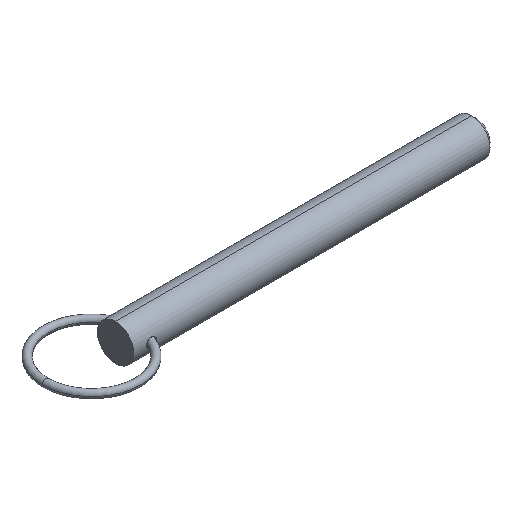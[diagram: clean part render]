
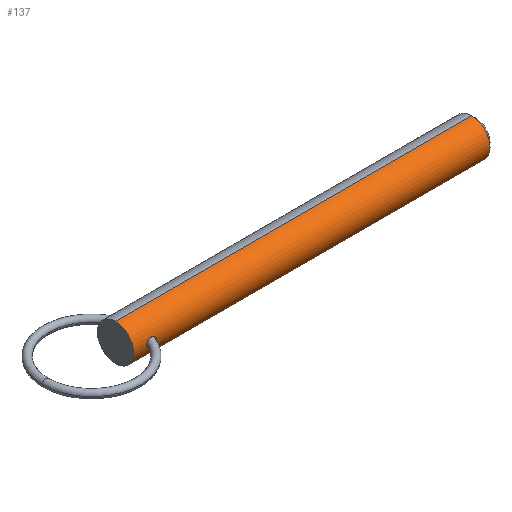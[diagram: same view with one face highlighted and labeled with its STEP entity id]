
A CAD part, isometric view. The second image highlights one B-rep face of the part: STEP entity #137.
In plain terms, the highlighted cylindrical face has radius 6.35 mm (diameter 12.7 mm), a partial arc.
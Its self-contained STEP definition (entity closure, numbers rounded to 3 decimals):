
#6 = CARTESIAN_POINT ( 'NONE',  ( 6.111, -6.15, 1.582 ) ) ;
#12 = CARTESIAN_POINT ( 'NONE',  ( 5.784, -6.165, -1.523 ) ) ;
#30 = DIRECTION ( 'NONE',  ( 0., 0., -1. ) ) ;
#39 = CARTESIAN_POINT ( 'NONE',  ( 7.693, -6.296, -0.832 ) ) ;
#40 = CARTESIAN_POINT ( 'NONE',  ( 0., 0., 0. ) ) ;
#46 = DIRECTION ( 'NONE',  ( 1., 0., 0. ) ) ;
#57 = CARTESIAN_POINT ( 'NONE',  ( 7.875, -6.338, 0.437 ) ) ;
#58 = VERTEX_POINT ( 'NONE', #114 ) ;
#62 = CARTESIAN_POINT ( 'NONE',  ( 6.329, -6.148, 1.59 ) ) ;
#77 = EDGE_CURVE ( 'NONE', #521, #466, #574, .T. ) ;
#89 = CARTESIAN_POINT ( 'NONE',  ( 7.336, -6.229, -1.238 ) ) ;
#108 = CARTESIAN_POINT ( 'NONE',  ( 4.722, -6.298, -0.813 ) ) ;
#113 = CARTESIAN_POINT ( 'NONE',  ( 6.107, -6.15, -1.582 ) ) ;
#114 = CARTESIAN_POINT ( 'NONE',  ( 4.452, -6.35, 0. ) ) ;
#121 = CYLINDRICAL_SURFACE ( 'NONE', #220, 6.35 ) ;
#131 = AXIS2_PLACEMENT_3D ( 'NONE', #519, #46, #444 ) ;
#137 = ADVANCED_FACE ( 'NONE', ( #450, #872 ), #121, .T. ) ;
#139 = B_SPLINE_CURVE_WITH_KNOTS ( 'NONE', 3,
 ( #183, #375, #438, #420, #653, #789, #39, #649, #178, #89, #360, #365, #714, #163, #626, #113, #319, #12, #843, #793, #718, #226, #484, #299, #294, #108, #557, #770, #159, #436, #553, #378 ),
 .UNSPECIFIED., .F., .F.,
 ( 4, 2, 2, 2, 2, 2, 2, 2, 2, 2, 2, 2, 2, 2, 2, 4 ),
 ( 0.006, 0.007, 0.007, 0.007, 0.008, 0.008, 0.008, 0.009, 0.009, 0.01, 0.01, 0.01, 0.011, 0.011, 0.011, 0.012 ),
 .UNSPECIFIED. ) ;
#140 = CARTESIAN_POINT ( 'NONE',  ( 0., 0., -6.35 ) ) ;
#146 = CARTESIAN_POINT ( 'NONE',  ( 5.191, -6.224, 1.268 ) ) ;
#149 = EDGE_CURVE ( 'NONE', #521, #298, #373, .T. ) ;
#159 = CARTESIAN_POINT ( 'NONE',  ( 4.52, -6.336, -0.428 ) ) ;
#163 = CARTESIAN_POINT ( 'NONE',  ( 6.655, -6.155, -1.565 ) ) ;
#171 = VERTEX_POINT ( 'NONE', #736 ) ;
#178 = CARTESIAN_POINT ( 'NONE',  ( 7.496, -6.256, -1.091 ) ) ;
#183 = CARTESIAN_POINT ( 'NONE',  ( 7.92, -6.35, 0. ) ) ;
#185 = DIRECTION ( 'NONE',  ( 1., 0., 0. ) ) ;
#200 = EDGE_LOOP ( 'NONE', ( #769, #619 ) ) ;
#208 = CARTESIAN_POINT ( 'NONE',  ( 7.92, -6.35, 0.218 ) ) ;
#214 = CARTESIAN_POINT ( 'NONE',  ( 4.51, -6.338, 0.435 ) ) ;
#220 = AXIS2_PLACEMENT_3D ( 'NONE', #40, #185, #30 ) ;
#226 = CARTESIAN_POINT ( 'NONE',  ( 5.192, -6.225, -1.257 ) ) ;
#241 = CARTESIAN_POINT ( 'NONE',  ( 123.812, 0., 0. ) ) ;
#248 = DIRECTION ( 'NONE',  ( 1., 0., 0. ) ) ;
#264 = DIRECTION ( 'NONE',  ( 1., 0., 0. ) ) ;
#274 = CARTESIAN_POINT ( 'NONE',  ( 6.759, -6.163, 1.529 ) ) ;
#286 = ORIENTED_EDGE ( 'NONE', *, *, #451, .T. ) ;
#294 = CARTESIAN_POINT ( 'NONE',  ( 4.86, -6.274, -0.98 ) ) ;
#298 = VERTEX_POINT ( 'NONE', #508 ) ;
#299 = CARTESIAN_POINT ( 'NONE',  ( 4.938, -6.262, -1.058 ) ) ;
#304 = AXIS2_PLACEMENT_3D ( 'NONE', #241, #248, #507 ) ;
#312 = B_SPLINE_CURVE_WITH_KNOTS ( 'NONE', 3,
 ( #825, #355, #214, #889, #753, #146, #477, #474, #345, #671, #6, #62, #337, #605, #274, #401, #411, #531, #666, #823, #682, #57, #208, #621 ),
 .UNSPECIFIED., .F., .F.,
 ( 4, 2, 2, 2, 2, 2, 2, 2, 2, 2, 2, 4 ),
 ( 0.001, 0.002, 0.002, 0.003, 0.003, 0.004, 0.004, 0.004, 0.005, 0.005, 0.006, 0.006 ),
 .UNSPECIFIED. ) ;
#319 = CARTESIAN_POINT ( 'NONE',  ( 5.998, -6.153, -1.568 ) ) ;
#326 = EDGE_CURVE ( 'NONE', #58, #419, #312, .T. ) ;
#328 = CIRCLE ( 'NONE', #304, 6.35 ) ;
#337 = CARTESIAN_POINT ( 'NONE',  ( 6.437, -6.149, 1.585 ) ) ;
#345 = CARTESIAN_POINT ( 'NONE',  ( 5.789, -6.164, 1.525 ) ) ;
#355 = CARTESIAN_POINT ( 'NONE',  ( 4.452, -6.35, 0.219 ) ) ;
#360 = CARTESIAN_POINT ( 'NONE',  ( 7.25, -6.215, -1.302 ) ) ;
#365 = CARTESIAN_POINT ( 'NONE',  ( 7.063, -6.191, -1.413 ) ) ;
#373 = CIRCLE ( 'NONE', #131, 6.35 ) ;
#375 = CARTESIAN_POINT ( 'NONE',  ( 7.92, -6.35, -0.109 ) ) ;
#378 = CARTESIAN_POINT ( 'NONE',  ( 4.452, -6.35, 0. ) ) ;
#382 = CARTESIAN_POINT ( 'NONE',  ( 0., 0., 6.35 ) ) ;
#401 = CARTESIAN_POINT ( 'NONE',  ( 6.965, -6.181, 1.458 ) ) ;
#406 = DIRECTION ( 'NONE',  ( 1., 0., 0. ) ) ;
#411 = CARTESIAN_POINT ( 'NONE',  ( 7.063, -6.191, 1.413 ) ) ;
#415 = ORIENTED_EDGE ( 'NONE', *, *, #77, .F. ) ;
#419 = VERTEX_POINT ( 'NONE', #688 ) ;
#420 = CARTESIAN_POINT ( 'NONE',  ( 7.865, -6.336, -0.432 ) ) ;
#436 = CARTESIAN_POINT ( 'NONE',  ( 4.466, -6.347, -0.219 ) ) ;
#438 = CARTESIAN_POINT ( 'NONE',  ( 7.909, -6.347, -0.22 ) ) ;
#444 = DIRECTION ( 'NONE',  ( 0., 0., -1. ) ) ;
#450 = FACE_OUTER_BOUND ( 'NONE', #552, .T. ) ;
#451 = EDGE_CURVE ( 'NONE', #298, #171, #482, .T. ) ;
#466 = VERTEX_POINT ( 'NONE', #573 ) ;
#474 = CARTESIAN_POINT ( 'NONE',  ( 5.685, -6.172, 1.494 ) ) ;
#477 = CARTESIAN_POINT ( 'NONE',  ( 5.381, -6.199, 1.378 ) ) ;
#482 = LINE ( 'NONE', #140, #680 ) ;
#484 = CARTESIAN_POINT ( 'NONE',  ( 5.104, -6.237, -1.196 ) ) ;
#486 = ORIENTED_EDGE ( 'NONE', *, *, #644, .F. ) ;
#505 = CARTESIAN_POINT ( 'NONE',  ( 0., 0., 6.35 ) ) ;
#507 = DIRECTION ( 'NONE',  ( 0., 0., -1. ) ) ;
#508 = CARTESIAN_POINT ( 'NONE',  ( 0., 0., -6.35 ) ) ;
#519 = CARTESIAN_POINT ( 'NONE',  ( 0., 0., 0. ) ) ;
#521 = VERTEX_POINT ( 'NONE', #382 ) ;
#528 = EDGE_CURVE ( 'NONE', #419, #58, #139, .T. ) ;
#531 = CARTESIAN_POINT ( 'NONE',  ( 7.249, -6.215, 1.303 ) ) ;
#552 = EDGE_LOOP ( 'NONE', ( #415, #771, #286, #486 ) ) ;
#553 = CARTESIAN_POINT ( 'NONE',  ( 4.452, -6.35, -0.109 ) ) ;
#557 = CARTESIAN_POINT ( 'NONE',  ( 4.662, -6.309, -0.723 ) ) ;
#573 = CARTESIAN_POINT ( 'NONE',  ( 123.812, 0., 6.35 ) ) ;
#574 = LINE ( 'NONE', #505, #818 ) ;
#605 = CARTESIAN_POINT ( 'NONE',  ( 6.652, -6.157, 1.554 ) ) ;
#619 = ORIENTED_EDGE ( 'NONE', *, *, #528, .T. ) ;
#621 = CARTESIAN_POINT ( 'NONE',  ( 7.92, -6.35, 0. ) ) ;
#626 = CARTESIAN_POINT ( 'NONE',  ( 6.434, -6.147, -1.595 ) ) ;
#644 = EDGE_CURVE ( 'NONE', #466, #171, #328, .T. ) ;
#649 = CARTESIAN_POINT ( 'NONE',  ( 7.568, -6.27, -1.008 ) ) ;
#653 = CARTESIAN_POINT ( 'NONE',  ( 7.833, -6.328, -0.536 ) ) ;
#666 = CARTESIAN_POINT ( 'NONE',  ( 7.338, -6.229, 1.237 ) ) ;
#671 = CARTESIAN_POINT ( 'NONE',  ( 6.002, -6.153, 1.569 ) ) ;
#680 = VECTOR ( 'NONE', #406, 1000. ) ;
#682 = CARTESIAN_POINT ( 'NONE',  ( 7.704, -6.298, 0.835 ) ) ;
#688 = CARTESIAN_POINT ( 'NONE',  ( 7.92, -6.35, 0. ) ) ;
#714 = CARTESIAN_POINT ( 'NONE',  ( 6.963, -6.18, -1.459 ) ) ;
#718 = CARTESIAN_POINT ( 'NONE',  ( 5.378, -6.201, -1.366 ) ) ;
#736 = CARTESIAN_POINT ( 'NONE',  ( 123.812, 0., -6.35 ) ) ;
#753 = CARTESIAN_POINT ( 'NONE',  ( 4.856, -6.274, 0.989 ) ) ;
#769 = ORIENTED_EDGE ( 'NONE', *, *, #326, .T. ) ;
#770 = CARTESIAN_POINT ( 'NONE',  ( 4.56, -6.329, -0.53 ) ) ;
#771 = ORIENTED_EDGE ( 'NONE', *, *, #149, .T. ) ;
#789 = CARTESIAN_POINT ( 'NONE',  ( 7.746, -6.308, -0.737 ) ) ;
#793 = CARTESIAN_POINT ( 'NONE',  ( 5.477, -6.191, -1.414 ) ) ;
#818 = VECTOR ( 'NONE', #264, 1000. ) ;
#823 = CARTESIAN_POINT ( 'NONE',  ( 7.576, -6.27, 1.017 ) ) ;
#825 = CARTESIAN_POINT ( 'NONE',  ( 4.452, -6.35, 0. ) ) ;
#843 = CARTESIAN_POINT ( 'NONE',  ( 5.68, -6.172, -1.492 ) ) ;
#872 = FACE_BOUND ( 'NONE', #200, .T. ) ;
#889 = CARTESIAN_POINT ( 'NONE',  ( 4.713, -6.3, 0.82 ) ) ;
